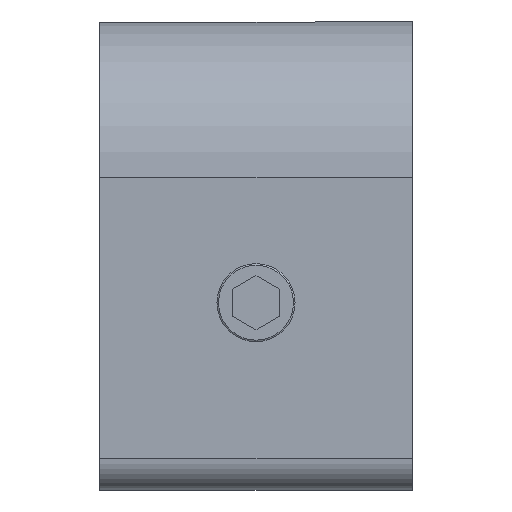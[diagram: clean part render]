
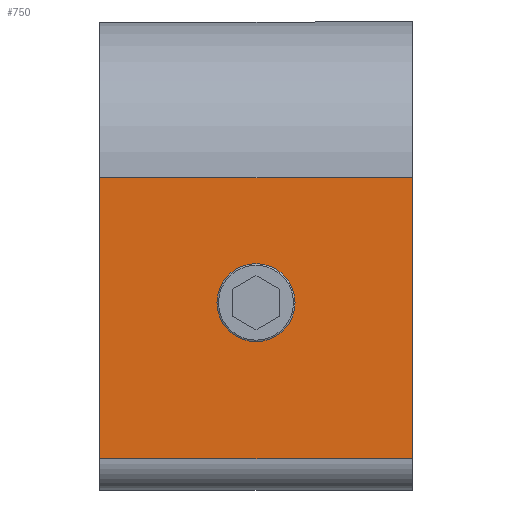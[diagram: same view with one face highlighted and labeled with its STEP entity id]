
A CAD part, left-side view. The second image highlights one B-rep face of the part: STEP entity #750.
In plain terms, the highlighted planar face has unit normal (-1, 0, 0).
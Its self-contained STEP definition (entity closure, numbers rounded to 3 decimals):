
#74=LINE('',#1215,#128);
#75=LINE('',#1218,#129);
#76=LINE('',#1220,#130);
#77=LINE('',#1221,#131);
#128=VECTOR('',#1005,10.);
#129=VECTOR('',#1008,10.);
#130=VECTOR('',#1009,10.);
#131=VECTOR('',#1010,10.);
#157=PLANE('',#834);
#172=FACE_BOUND('',#274,.T.);
#219=FACE_OUTER_BOUND('',#273,.T.);
#273=EDGE_LOOP('',(#602,#603,#604,#605));
#274=EDGE_LOOP('',(#606));
#311=CIRCLE('',#802,1.25);
#355=VERTEX_POINT('',#1124);
#384=VERTEX_POINT('',#1208);
#387=VERTEX_POINT('',#1213);
#388=VERTEX_POINT('',#1217);
#389=VERTEX_POINT('',#1219);
#427=EDGE_CURVE('',#355,#355,#311,.T.);
#468=EDGE_CURVE('',#387,#384,#74,.T.);
#469=EDGE_CURVE('',#388,#387,#75,.T.);
#470=EDGE_CURVE('',#389,#388,#76,.T.);
#471=EDGE_CURVE('',#384,#389,#77,.T.);
#602=ORIENTED_EDGE('',*,*,#468,.F.);
#603=ORIENTED_EDGE('',*,*,#469,.F.);
#604=ORIENTED_EDGE('',*,*,#470,.F.);
#605=ORIENTED_EDGE('',*,*,#471,.F.);
#606=ORIENTED_EDGE('',*,*,#427,.T.);
#750=ADVANCED_FACE('',(#219,#172),#157,.T.);
#802=AXIS2_PLACEMENT_3D('',#1125,#915,#916);
#834=AXIS2_PLACEMENT_3D('',#1216,#1006,#1007);
#915=DIRECTION('center_axis',(1.,0.,0.));
#916=DIRECTION('ref_axis',(0.,0.,1.));
#1005=DIRECTION('',(0.,1.,0.));
#1006=DIRECTION('center_axis',(-1.,0.,0.));
#1007=DIRECTION('ref_axis',(0.,0.,1.));
#1008=DIRECTION('',(0.,0.,-1.));
#1009=DIRECTION('',(0.,-1.,0.));
#1010=DIRECTION('',(0.,0.,1.));
#1124=CARTESIAN_POINT('',(-20.,0.,7.25));
#1125=CARTESIAN_POINT('Origin',(-20.,0.,6.));
#1208=CARTESIAN_POINT('',(-20.,5.,1.));
#1213=CARTESIAN_POINT('',(-20.,-5.,1.));
#1215=CARTESIAN_POINT('',(-20.,0.,1.));
#1216=CARTESIAN_POINT('Origin',(-20.,0.,0.));
#1217=CARTESIAN_POINT('',(-20.,-5.,10.));
#1218=CARTESIAN_POINT('',(-20.,-5.,0.));
#1219=CARTESIAN_POINT('',(-20.,5.,10.));
#1220=CARTESIAN_POINT('',(-20.,-5.,10.));
#1221=CARTESIAN_POINT('',(-20.,5.,0.));
